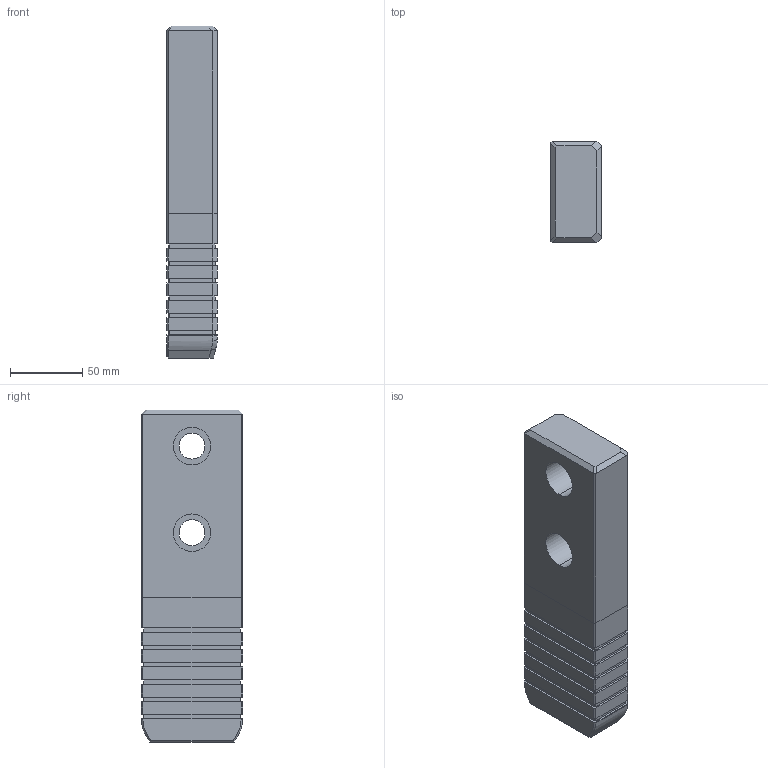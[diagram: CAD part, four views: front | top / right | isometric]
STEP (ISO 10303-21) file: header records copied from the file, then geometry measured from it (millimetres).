
FILE_DESCRIPTION((''),'2;1');
FILE_NAME('','2010-08-30T13:12:39+09:00',('misumi'),(''),'M/STEP i/f 1R2-14','CADmeister v5.1','');
FILE_SCHEMA(('AUTOMOTIVE_DESIGN'));
Length unit declared in the file: millimetre
Products named in the file (1): GWBZ70-230
Bounding box: 35 x 70 x 230 mm (x, y, z)
Volume: 524009 mm3; surface area: 58348.6 mm2
Topology: 1 solids, 1 shells, 163 faces, 419 edges, 272 vertices
Faces by surface type: plane 144, cylinder 11, bspline 6, cone 2
Entity records: 5219 total; most frequent: CARTESIAN_POINT 1197, ORIENTED_EDGE 838, DIRECTION 737, EDGE_CURVE 419, LINE 381, VECTOR 381, VERTEX_POINT 272, EDGE_LOOP 181
